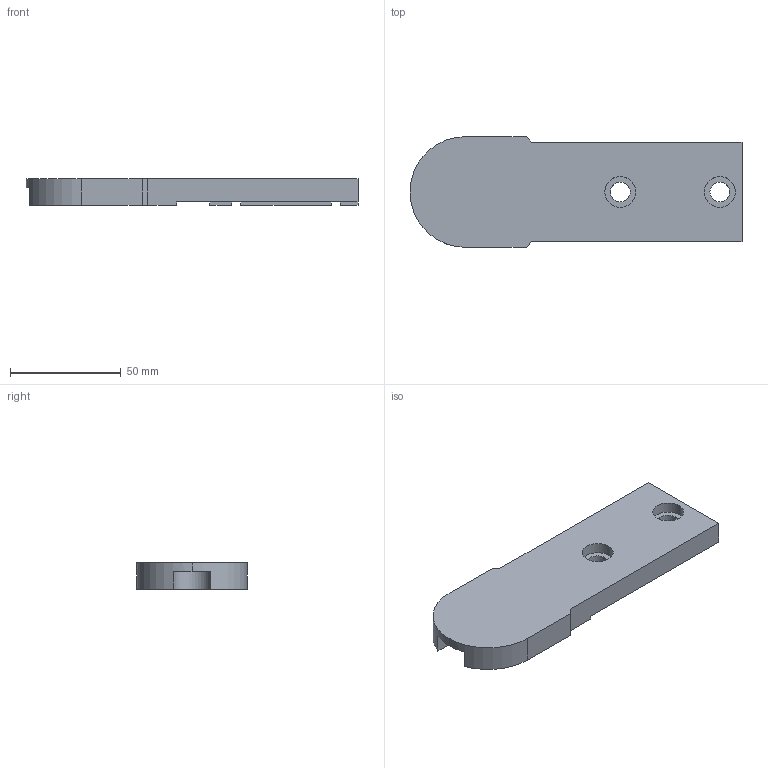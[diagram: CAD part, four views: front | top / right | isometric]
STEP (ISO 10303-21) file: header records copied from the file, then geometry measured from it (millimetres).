
FILE_DESCRIPTION (( 'STEP AP203' ), '1' );
FILE_NAME ('084.807.014.STEP', '2013-01-29T12:45:46', ( 'Alusic' ), ( 'Alusic' ), 'SwSTEP 2.0', 'SolidWorks 2011', '' );
FILE_SCHEMA (( 'CONFIG_CONTROL_DESIGN' ));
Length unit declared in the file: millimetre
Products named in the file (1): 084.807.014
Bounding box: 150 x 50 x 12 mm (x, y, z)
Volume: 68214.6 mm3; surface area: 19129.2 mm2
Topology: 1 solids, 1 shells, 37 faces, 105 edges, 70 vertices
Faces by surface type: plane 26, cylinder 11
Entity records: 1296 total; most frequent: CARTESIAN_POINT 213, DIRECTION 213, ORIENTED_EDGE 210, EDGE_CURVE 105, VECTOR 73, LINE 73, AXIS2_PLACEMENT_3D 70, VERTEX_POINT 70
